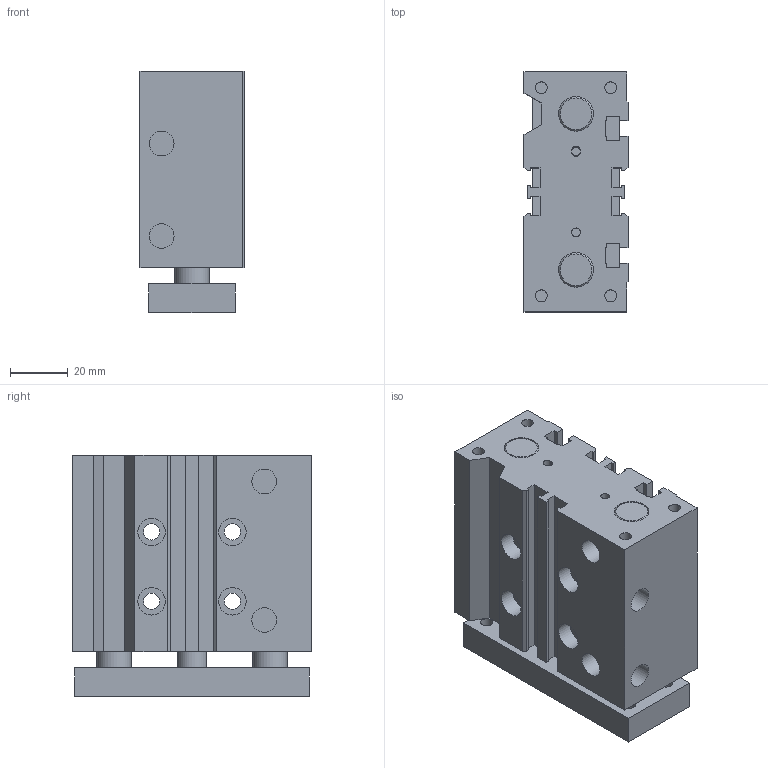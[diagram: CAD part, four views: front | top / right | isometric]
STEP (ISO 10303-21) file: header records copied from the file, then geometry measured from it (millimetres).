
FILE_DESCRIPTION((''),'2;1');
FILE_NAME('K:\A-Mauro\_Inventor\LIBRERIE\6100\6100_#_#_#\6100200030B.stp','2007-02-26T08:49:03',('valotma1'),(''),'Autodesk Inventor 11','Autodesk Inventor 11','');
FILE_SCHEMA(('AUTOMOTIVE_DESIGN { 1 0 10303 214 1 1 1 1 }'));
Length unit declared in the file: millimetre
Products named in the file (3): 6100200030B; CORPO Ø20 C30 B; PIASTRA Ø20 C30 B
Assembly tree (2 placements, depth 2):
  6100200030B
    CORPO Ø20 C30 B
    PIASTRA Ø20 C30 B
Bounding box: 36 x 83 x 83.5 mm (x, y, z)
Volume: 199249.4 mm3; surface area: 52242.1 mm2
Topology: 2 solids, 2 shells, 158 faces, 393 edges, 261 vertices
Faces by surface type: plane 95, bspline 52, cylinder 9, cone 2
Full cylindrical faces by diameter (mm): 10 x1, 12 x2
Entity records: 4932 total; most frequent: CARTESIAN_POINT 1329, ORIENTED_EDGE 702, DIRECTION 654, EDGE_CURVE 351, VECTOR 270, LINE 270, VERTEX_POINT 253, EDGE_LOOP 234
